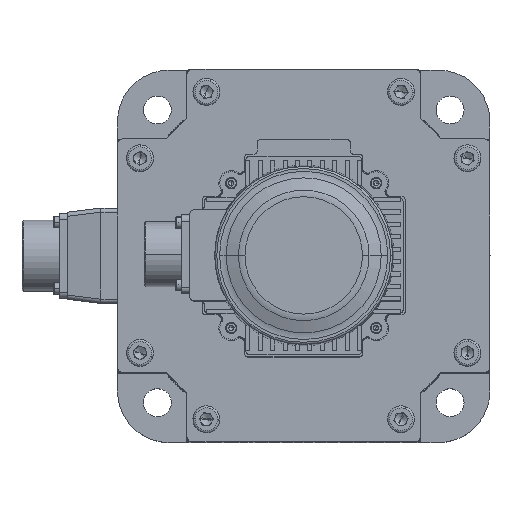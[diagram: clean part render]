
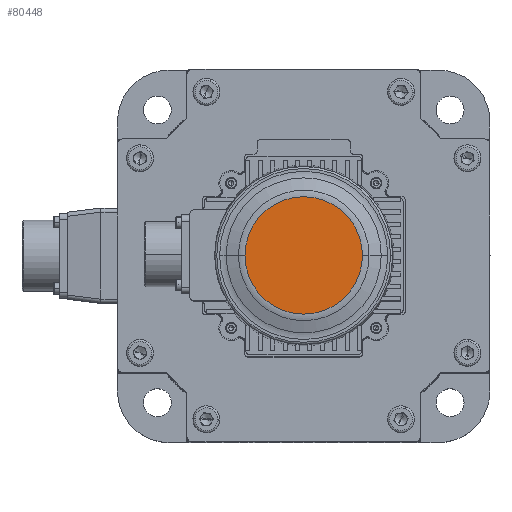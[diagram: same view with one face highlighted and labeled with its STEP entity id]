
A CAD part, top view. The second image highlights one B-rep face of the part: STEP entity #80448.
In plain terms, the highlighted planar face has unit normal (0, 0, 1) as drawn and (0, 0, -1) by its records, which use the part's own axes.
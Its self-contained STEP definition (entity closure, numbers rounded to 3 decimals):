
#24311 = CARTESIAN_POINT ( 'NONE',  ( 0., 0., 48.762 ) ) ;
#24352 = ORIENTED_EDGE ( 'NONE', *, *, #80667, .F. ) ;
#31894 = EDGE_CURVE ( 'NONE', #46610, #75971, #63796, .T. ) ;
#32358 = DIRECTION ( 'NONE',  ( 1., 0., 0. ) ) ;
#45081 = PLANE ( 'NONE',  #89605 ) ;
#45415 = DIRECTION ( 'NONE',  ( 1., 0., 0. ) ) ;
#45842 = AXIS2_PLACEMENT_3D ( 'NONE', #46700, #102859, #54798 ) ;
#46156 = CARTESIAN_POINT ( 'NONE',  ( 28.377, 0., 48.762 ) ) ;
#46307 = CARTESIAN_POINT ( 'NONE',  ( -28.377, 0., 48.762 ) ) ;
#46610 = VERTEX_POINT ( 'NONE', #46307 ) ;
#46700 = CARTESIAN_POINT ( 'NONE',  ( 0., 0., 48.762 ) ) ;
#49943 = ORIENTED_EDGE ( 'NONE', *, *, #31894, .F. ) ;
#53190 = CARTESIAN_POINT ( 'NONE',  ( 0., 28.377, 48.762 ) ) ;
#54798 = DIRECTION ( 'NONE',  ( 1., 0., 0. ) ) ;
#63796 = CIRCLE ( 'NONE', #45842, 28.377 ) ;
#75971 = VERTEX_POINT ( 'NONE', #46156 ) ;
#76909 = AXIS2_PLACEMENT_3D ( 'NONE', #24311, #80498, #32358 ) ;
#80448 = ADVANCED_FACE ( 'NONE', ( #87418 ), #45081, .F. ) ;
#80498 = DIRECTION ( 'NONE',  ( 0., 0., 1. ) ) ;
#80667 = EDGE_CURVE ( 'NONE', #75971, #46610, #88628, .T. ) ;
#87418 = FACE_OUTER_BOUND ( 'NONE', #97508, .T. ) ;
#88628 = CIRCLE ( 'NONE', #76909, 28.377 ) ;
#89605 = AXIS2_PLACEMENT_3D ( 'NONE', #53190, #93605, #45415 ) ;
#93605 = DIRECTION ( 'NONE',  ( 0., 0., 1. ) ) ;
#97508 = EDGE_LOOP ( 'NONE', ( #24352, #49943 ) ) ;
#102859 = DIRECTION ( 'NONE',  ( 0., 0., 1. ) ) ;
